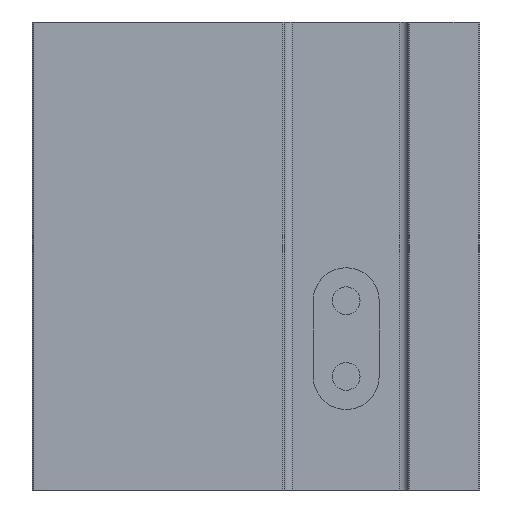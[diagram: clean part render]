
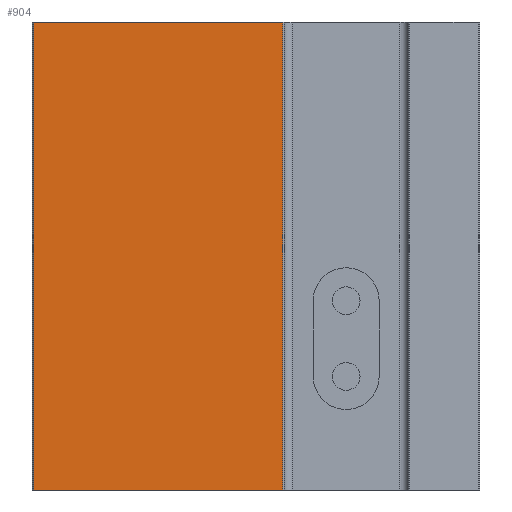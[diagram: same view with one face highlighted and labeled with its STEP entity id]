
A CAD part, front view. The second image highlights one B-rep face of the part: STEP entity #904.
In plain terms, the highlighted planar face has unit normal (0, -1, 0).
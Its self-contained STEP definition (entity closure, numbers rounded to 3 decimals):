
#642 = VERTEX_POINT( '', #1802 );
#720 = EDGE_CURVE( '', #1144, #642, #1893, .T. );
#904 = ADVANCED_FACE( '', ( #2094 ), #2095, .T. );
#1144 = VERTEX_POINT( '', #2354 );
#1200 = VERTEX_POINT( '', #2417 );
#1430 = VERTEX_POINT( '', #2682 );
#1510 = EDGE_CURVE( '', #1144, #1430, #2774, .T. );
#1522 = EDGE_CURVE( '', #642, #1200, #2786, .T. );
#1666 = EDGE_CURVE( '', #1430, #1200, #2951, .T. );
#1802 = CARTESIAN_POINT( '', ( -4.6, -5., 0. ) );
#1893 = LINE( '', #3211, #3212 );
#2094 = FACE_OUTER_BOUND( '', #3501, .T. );
#2095 = PLANE( '', #3502 );
#2354 = CARTESIAN_POINT( '', ( -22.7, -5., 0. ) );
#2417 = CARTESIAN_POINT( '', ( -4.6, -5., -34. ) );
#2682 = CARTESIAN_POINT( '', ( -22.7, -5., -34. ) );
#2774 = LINE( '', #4415, #4416 );
#2786 = LINE( '', #4434, #4435 );
#2951 = LINE( '', #4664, #4665 );
#3211 = CARTESIAN_POINT( '', ( -22.7, -5., 0. ) );
#3212 = VECTOR( '', #4946, 1. );
#3501 = EDGE_LOOP( '', ( #5170, #5171, #5172, #5173 ) );
#3502 = AXIS2_PLACEMENT_3D( '', #5174, #5175, #5176 );
#4415 = CARTESIAN_POINT( '', ( -22.7, -5., 0. ) );
#4416 = VECTOR( '', #5933, 1. );
#4434 = CARTESIAN_POINT( '', ( -4.6, -5., 0. ) );
#4435 = VECTOR( '', #5939, 1. );
#4664 = CARTESIAN_POINT( '', ( -22.7, -5., -34. ) );
#4665 = VECTOR( '', #6149, 1. );
#4946 = DIRECTION( '', ( 1., 0., 0. ) );
#5170 = ORIENTED_EDGE( '', *, *, #1666, .T. );
#5171 = ORIENTED_EDGE( '', *, *, #1522, .F. );
#5172 = ORIENTED_EDGE( '', *, *, #720, .F. );
#5173 = ORIENTED_EDGE( '', *, *, #1510, .T. );
#5174 = CARTESIAN_POINT( '', ( -22.7, -5., 0. ) );
#5175 = DIRECTION( '', ( 0., -1., 0. ) );
#5176 = DIRECTION( '', ( -1., 0., 0. ) );
#5933 = DIRECTION( '', ( 0., 0., -1. ) );
#5939 = DIRECTION( '', ( 0., 0., -1. ) );
#6149 = DIRECTION( '', ( 1., 0., 0. ) );
